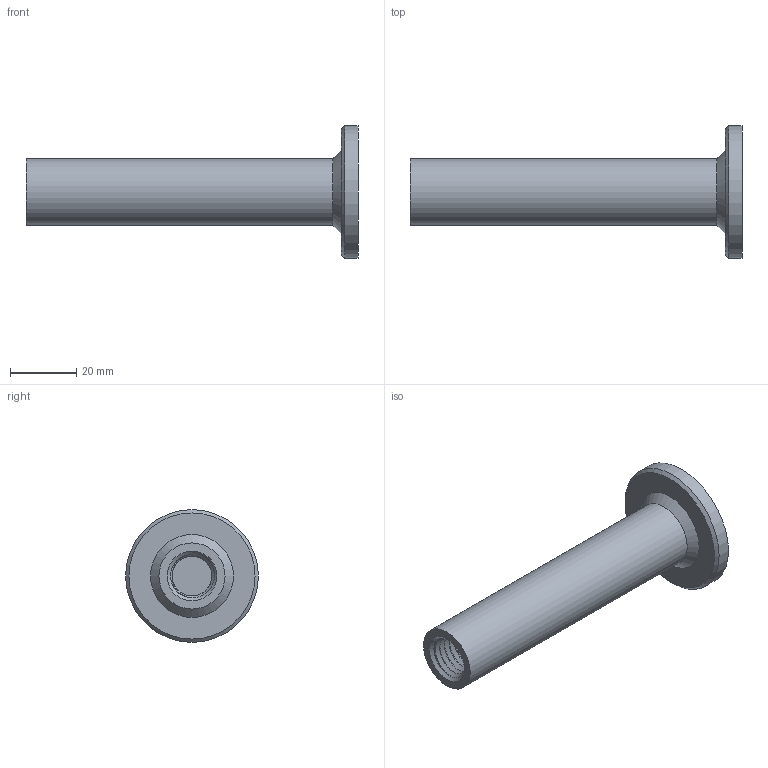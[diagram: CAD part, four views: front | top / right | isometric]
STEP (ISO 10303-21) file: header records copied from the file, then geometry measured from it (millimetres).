
FILE_DESCRIPTION(('HOOPS Exchange Step'),'2;1');
FILE_NAME('/private/var/mobile/Containers/Data/Application/E34E9B9D-13F5-4398-A6D4-3D2E6F602CF2/tmp/export/temp_export','2023-02-19T17:27:10-06:00',('mobile'),('Shapr3D Limited'),'HOOPS Exchange 2022.2','Shapr3D','Authorized');
FILE_SCHEMA( ('AUTOMOTIVE_DESIGN { 1 0 10303 214 1 1 1 1 }') );
Length unit declared in the file: millimetre
Products named in the file (1): Spacer 2-100
Bounding box: 100 x 40 x 40 mm (x, y, z)
Volume: 30625.5 mm3; surface area: 11164.6 mm2
Topology: 1 solids, 1 shells, 38 faces, 103 edges, 70 vertices
Faces by surface type: cylinder 23, plane 7, cone 4, bspline 4
Full cylindrical faces by diameter (mm): 14 x17, 19.9 x1, 40 x1
Entity records: 18047 total; most frequent: CARTESIAN_POINT 17209, ORIENTED_EDGE 206, DIRECTION 137, EDGE_CURVE 103, VERTEX_POINT 70, AXIS2_PLACEMENT_3D 56, EDGE_LOOP 41, FACE_BOUND 41
